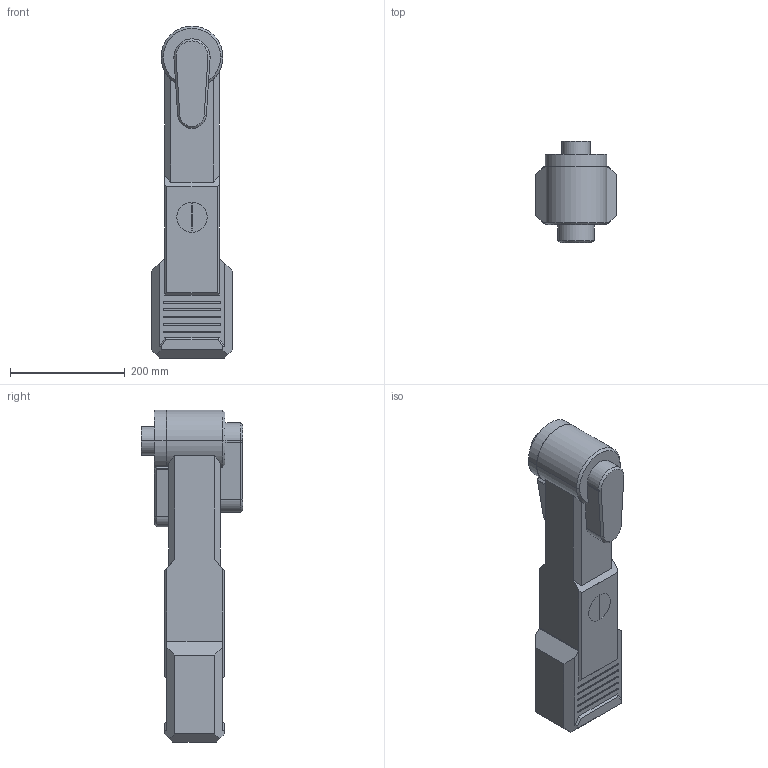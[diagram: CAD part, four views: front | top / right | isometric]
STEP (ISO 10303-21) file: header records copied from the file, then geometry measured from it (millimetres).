
FILE_DESCRIPTION (( 'STEP AP214' ), '1' );
FILE_NAME ('Joint2.STEP', '2019-03-22T05:10:22', ( '' ), ( '' ), 'SwSTEP 2.0', 'SolidWorks 2018', '' );
FILE_SCHEMA (( 'AUTOMOTIVE_DESIGN' ));
Length unit declared in the file: millimetre
Products named in the file (2): Scorbot_ER9-2_Predeterminado; Joint2
Assembly tree (1 placements, depth 2):
  Joint2
    Scorbot_ER9-2_Predeterminado
Bounding box: 141.5 x 177 x 579.69 mm (x, y, z)
Volume: 6530976.4 mm3; surface area: 288747.2 mm2
Topology: 1 solids, 1 shells, 326 faces, 838 edges, 552 vertices
Faces by surface type: plane 186, cylinder 129, cone 11
Entity records: 12159 total; most frequent: CARTESIAN_POINT 1783, DIRECTION 1749, ORIENTED_EDGE 1676, EDGE_CURVE 838, AXIS2_PLACEMENT_3D 598, LINE 553, VECTOR 553, VERTEX_POINT 552
